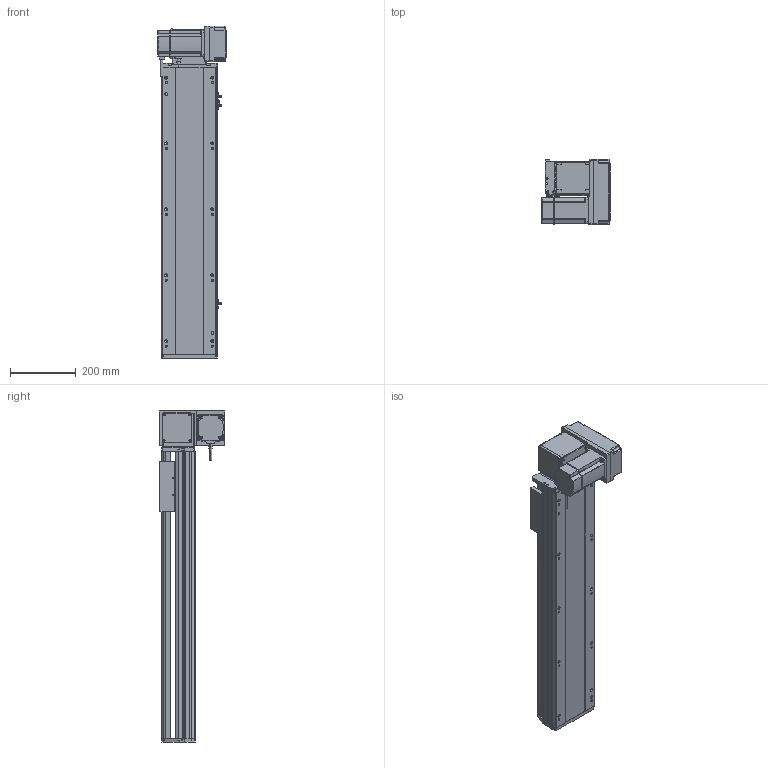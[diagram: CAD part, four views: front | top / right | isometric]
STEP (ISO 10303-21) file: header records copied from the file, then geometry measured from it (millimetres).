
FILE_DESCRIPTION (( 'STEP AP214' ), '1' );
FILE_NAME ('RTB17S-XX-600-RM-M75-C4.STEP', '2025-12-12T02:02:57', ( '' ), ( '' ), 'SwSTEP 2.0', 'SolidWorks 2018', '' );
FILE_SCHEMA (( 'AUTOMOTIVE_DESIGN' ));
Length unit declared in the file: millimetre
Products named in the file (15): RTB22S-GY-008-M75--萇儂啣^RTB17S-RM-々湍釱蚾饜-750W_RTB17S-XX-XX-RM-M75-C4; EE672^RTB17S-XX-XX-RM-M75-C4; RTB17S-L-004-賑釱^RTB17S-賑釱_RTB17S-XX-XX-RM-M75-C4; RTB22S-GY-018P^RTB17S-RM-々湍釱蚾饜-750W_RTB17S-XX-XX-RM-M75-C4; RTB22S-GY-017P^RTB17S-RM-々湍釱蚾饜-750W_RTB17S-XX-XX-RM-M75-C4; RTB17S-賑釱^RTB17S-XX-XX-RM-M75-C4; RTB17S-L-014-T20-P75--々湍釱^RTB17S-RM-々湍釱蚾饜-750W_RTB17S-XX-XX-RM-M75-C4; RTB17S-L-001-耜醱啣^RTB17S-XX-XX-RM-M75-C4; RTB17S-L-007奻裔^RTB17S-XX-XX-RM-M75-C4; 750W萇儂^RTB17S-XX-XX-RM-M75-C4; RTH13-BL-012覜茼え俋离^RTB17S-賑釱_RTB17S-XX-XX-RM-M75-C4; RTB22S-GY-005P^RTB17S-RM-々湍釱蚾饜-750W_RTB17S-XX-XX-RM-M75-C4; RTB17-R-011菁釱^RTB17S-XX-XX-RM-M75-C4; RTB17S-XX-600-RM-M75-C4; RTB17S-RM-々湍釱蚾饜-750W^RTB17S-XX-XX-RM-M75-C4
Assembly tree (17 placements, depth 3):
  RTB17S-XX-600-RM-M75-C4
    RTB17-R-011菁釱^RTB17S-XX-XX-RM-M75-C4
    EE672^RTB17S-XX-XX-RM-M75-C4  x3
    RTB17S-L-001-耜醱啣^RTB17S-XX-XX-RM-M75-C4
    RTB17S-賑釱^RTB17S-XX-XX-RM-M75-C4
      RTB17S-L-004-賑釱^RTB17S-賑釱_RTB17S-XX-XX-RM-M75-C4
      RTH13-BL-012覜茼え俋离^RTB17S-賑釱_RTB17S-XX-XX-RM-M75-C4
    RTB17S-L-007奻裔^RTB17S-XX-XX-RM-M75-C4
    750W萇儂^RTB17S-XX-XX-RM-M75-C4
    RTB17S-RM-々湍釱蚾饜-750W^RTB17S-XX-XX-RM-M75-C4
      RTB17S-L-014-T20-P75--々湍釱^RTB17S-RM-々湍釱蚾饜-750W_RTB17S-XX-XX-RM-M75-C4
      RTB22S-GY-005P^RTB17S-RM-々湍釱蚾饜-750W_RTB17S-XX-XX-RM-M75-C4
      RTB22S-GY-017P^RTB17S-RM-々湍釱蚾饜-750W_RTB17S-XX-XX-RM-M75-C4  x2
      RTB22S-GY-008-M75--萇儂啣^RTB17S-RM-々湍釱蚾饜-750W_RTB17S-XX-XX-RM-M75-C4
      RTB22S-GY-018P^RTB17S-RM-々湍釱蚾饜-750W_RTB17S-XX-XX-RM-M75-C4
Bounding box: 207.4 x 200 x 1007.5 mm (x, y, z)
Volume: 9703296.7 mm3; surface area: 1578688.1 mm2
Topology: 17 solids, 17 shells, 2057 faces, 5674 edges, 3662 vertices
Faces by surface type: plane 966, cylinder 675, bspline 294, cone 110, sphere 8, torus 4
Entity records: 56566 total; most frequent: CARTESIAN_POINT 16538, ORIENTED_EDGE 8192, DIRECTION 7682, EDGE_CURVE 4096, AXIS2_PLACEMENT_3D 2682, VERTEX_POINT 2666, LINE 2318, VECTOR 2318
